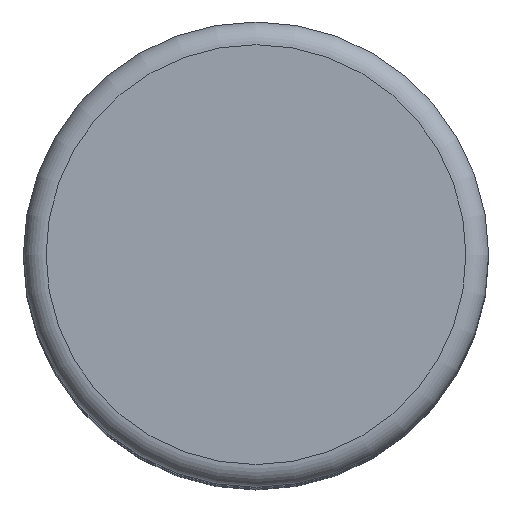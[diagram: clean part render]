
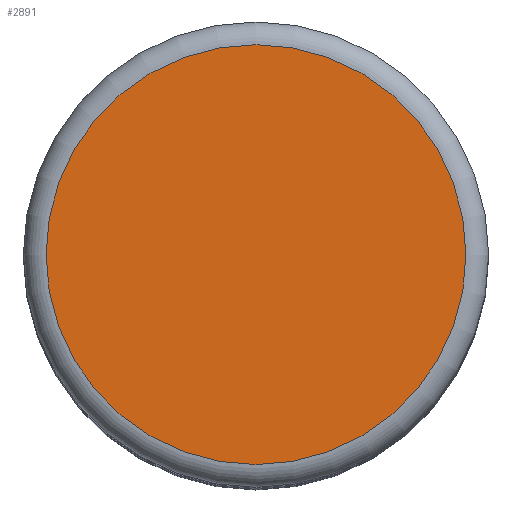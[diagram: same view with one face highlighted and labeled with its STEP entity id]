
A CAD part, top view. The second image highlights one B-rep face of the part: STEP entity #2891.
In plain terms, the highlighted planar face has unit normal (0, 0, 1).
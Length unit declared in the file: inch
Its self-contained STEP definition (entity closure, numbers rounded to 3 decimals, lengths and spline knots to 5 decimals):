
#152=PLANE('',#3104);
#316=FACE_OUTER_BOUND('',#479,.T.);
#479=EDGE_LOOP('',(#2699));
#722=CIRCLE('',#3103,0.18472);
#1394=VERTEX_POINT('',#6474);
#1829=EDGE_CURVE('',#1394,#1394,#722,.T.);
#2699=ORIENTED_EDGE('',*,*,#1829,.F.);
#2891=ADVANCED_FACE('',(#316),#152,.T.);
#3103=AXIS2_PLACEMENT_3D('',#6476,#3679,#3680);
#3104=AXIS2_PLACEMENT_3D('',#6477,#3681,#3682);
#3679=DIRECTION('center_axis',(0.,0.,-1.));
#3680=DIRECTION('ref_axis',(-1.,0.,0.));
#3681=DIRECTION('center_axis',(0.,0.,1.));
#3682=DIRECTION('ref_axis',(1.,0.,0.));
#6474=CARTESIAN_POINT('',(0.18472,0.,0.68504));
#6476=CARTESIAN_POINT('Origin',(0.,0.,0.68504));
#6477=CARTESIAN_POINT('Origin',(0.,0.,0.68504));
